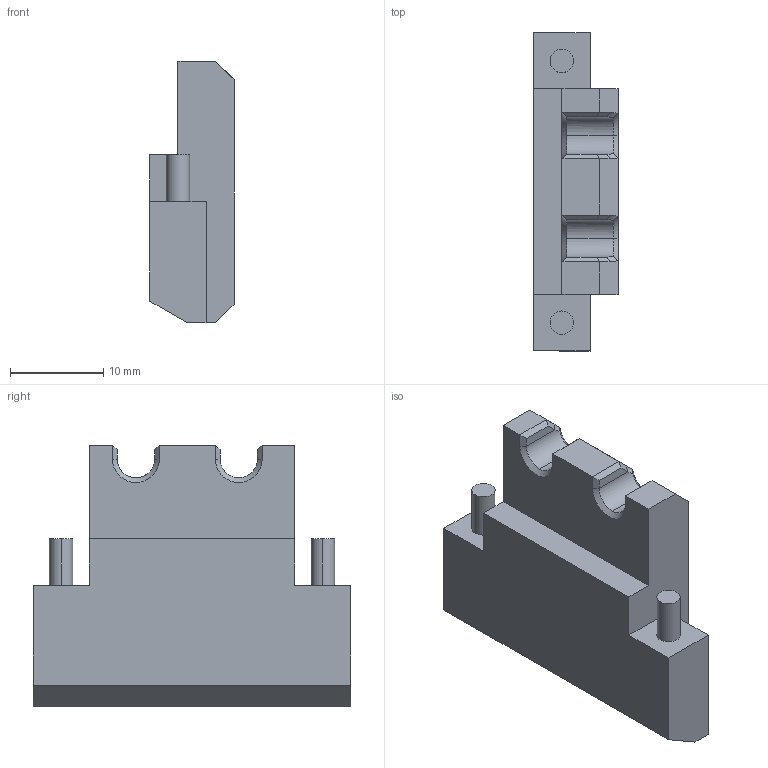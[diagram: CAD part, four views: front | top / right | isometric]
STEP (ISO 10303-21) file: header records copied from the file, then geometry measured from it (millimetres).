
FILE_DESCRIPTION (( 'STEP AP214' ), '1' );
FILE_NAME ('GZ46.08_V1支撑板.STEP', '2021-06-25T05:55:56', ( '微软中国' ), ( 'Microsoft' ), 'SwSTEP 2.0', 'SolidWorks 2017', '' );
FILE_SCHEMA (( 'AUTOMOTIVE_DESIGN' ));
Length unit declared in the file: millimetre
Products named in the file (1): GZ46.08_V1盓傅啣
Bounding box: 9 x 34 x 28 mm (x, y, z)
Volume: 5485.7 mm3; surface area: 2479.5 mm2
Topology: 1 solids, 1 shells, 57 faces, 141 edges, 88 vertices
Faces by surface type: plane 39, cylinder 8, cone 6, bspline 4
Entity records: 1819 total; most frequent: CARTESIAN_POINT 471, ORIENTED_EDGE 282, DIRECTION 251, EDGE_CURVE 141, VECTOR 99, LINE 99, VERTEX_POINT 88, AXIS2_PLACEMENT_3D 76
